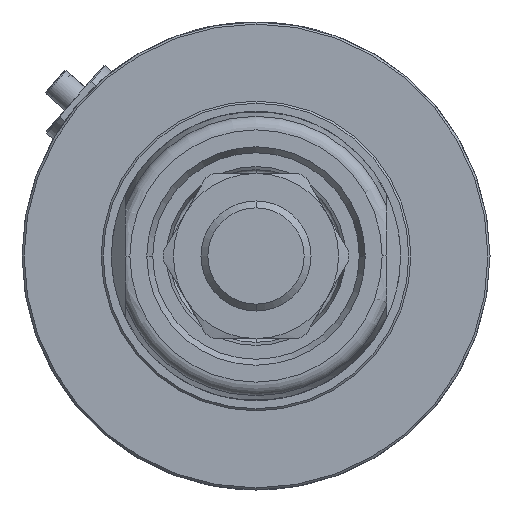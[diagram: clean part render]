
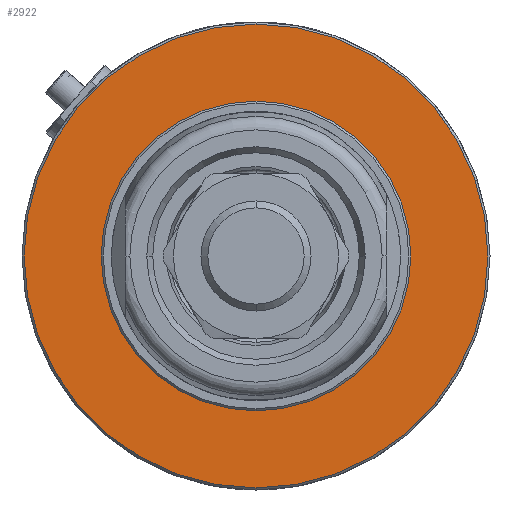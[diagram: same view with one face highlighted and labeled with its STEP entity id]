
A CAD part, front view. The second image highlights one B-rep face of the part: STEP entity #2922.
In plain terms, the highlighted planar face has unit normal (0, -1, 0) as drawn and (-1, 0, 0) by its records, which use the part's own axes.
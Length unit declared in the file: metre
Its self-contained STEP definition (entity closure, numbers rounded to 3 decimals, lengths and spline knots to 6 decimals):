
#2922=ADVANCED_FACE('',(#4526,#4527),#4528,.F.);
#4526=FACE_OUTER_BOUND('',#6619,.T.);
#4527=FACE_BOUND('',#6620,.T.);
#4528=PLANE('',#6621);
#6619=EDGE_LOOP('',(#11850,#11851));
#6620=EDGE_LOOP('',(#11852,#11853));
#6621=AXIS2_PLACEMENT_3D('',#11854,#11855,#11856);
#11850=ORIENTED_EDGE('',*,*,#15505,.T.);
#11851=ORIENTED_EDGE('',*,*,#15370,.T.);
#11852=ORIENTED_EDGE('',*,*,#15460,.F.);
#11853=ORIENTED_EDGE('',*,*,#15506,.F.);
#11854=CARTESIAN_POINT('',(-0.029,0.0,0.034));
#11855=DIRECTION('',(1.0,0.0,0.0));
#11856=DIRECTION('',(0.0,1.0,-0.0));
#15370=EDGE_CURVE('',#18147,#18144,#18148,.F.);
#15460=EDGE_CURVE('',#18306,#18308,#18309,.T.);
#15505=EDGE_CURVE('',#18144,#18147,#18379,.F.);
#15506=EDGE_CURVE('',#18308,#18306,#18380,.T.);
#18144=VERTEX_POINT('',#22305);
#18147=VERTEX_POINT('',#22309);
#18148=CIRCLE('',#22310,0.0337);
#18306=VERTEX_POINT('',#22588);
#18308=VERTEX_POINT('',#22591);
#18309=CIRCLE('',#22592,0.0225);
#18379=CIRCLE('',#22783,0.0337);
#18380=CIRCLE('',#22784,0.0225);
#22305=CARTESIAN_POINT('',(-0.029,0.0,-0.0337));
#22309=CARTESIAN_POINT('',(-0.029,0.,0.0337));
#22310=AXIS2_PLACEMENT_3D('',#26981,#26982,#26983);
#22588=CARTESIAN_POINT('',(-0.029,0.0,0.0225));
#22591=CARTESIAN_POINT('',(-0.029,0.,-0.0225));
#22592=AXIS2_PLACEMENT_3D('',#27141,#27142,#27143);
#22783=AXIS2_PLACEMENT_3D('',#27212,#27213,#27214);
#22784=AXIS2_PLACEMENT_3D('',#27215,#27216,#27217);
#26981=CARTESIAN_POINT('',(-0.029,0.0,0.0));
#26982=DIRECTION('',(1.0,0.0,0.0));
#26983=DIRECTION('',(0.0,0.0,-1.0));
#27141=CARTESIAN_POINT('',(-0.029,0.0,0.0));
#27142=DIRECTION('',(-1.0,0.0,0.0));
#27143=DIRECTION('',(0.0,0.0,1.0));
#27212=CARTESIAN_POINT('',(-0.029,0.0,0.0));
#27213=DIRECTION('',(1.0,0.0,0.0));
#27214=DIRECTION('',(0.0,0.0,-1.0));
#27215=CARTESIAN_POINT('',(-0.029,0.0,0.0));
#27216=DIRECTION('',(-1.0,0.0,0.0));
#27217=DIRECTION('',(0.0,0.0,1.0));
